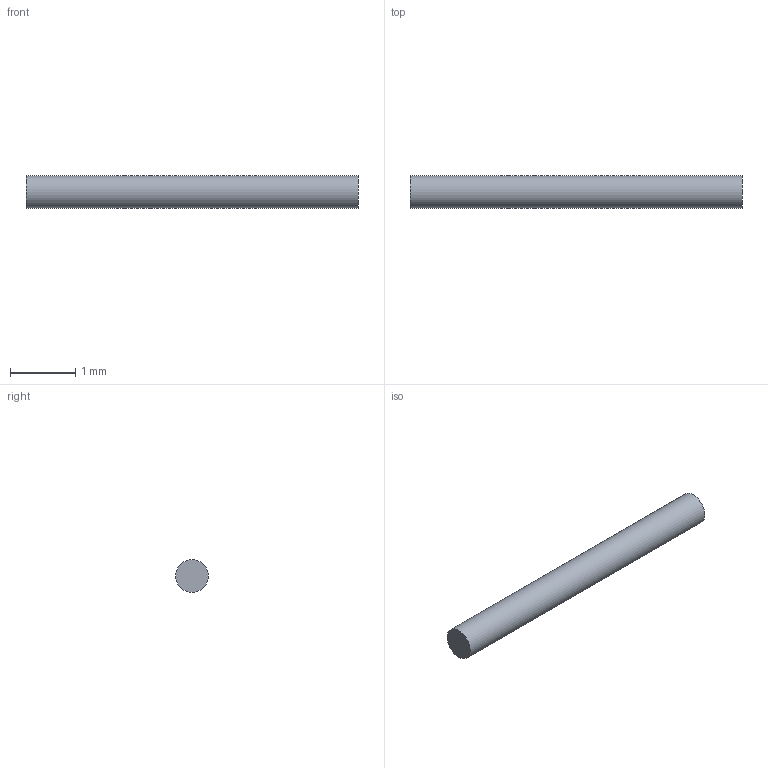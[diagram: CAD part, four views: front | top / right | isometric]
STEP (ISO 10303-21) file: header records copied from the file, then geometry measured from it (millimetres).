
FILE_DESCRIPTION(('FreeCAD Model'),'2;1');
FILE_NAME('Open CASCADE Shape Model','2026-04-07T19:07:43',('FreeCAD'),( 'FreeCAD'),'Open CASCADE STEP processor 7.8','FreeCAD','Unknown');
FILE_SCHEMA(('AUTOMOTIVE_DESIGN { 1 0 10303 214 1 1 1 1 }'));
Length unit declared in the file: millimetre
Products named in the file (1): Open CASCADE STEP translator 7.8 17
Bounding box: 5.08 x 0.5 x 0.5 mm (x, y, z)
Volume: 1 mm3; surface area: 8.4 mm2
Topology: 1 solids, 1 shells, 3 faces, 3 edges, 2 vertices
Faces by surface type: plane 2, cylinder 1
Full cylindrical faces by diameter (mm): 0.5 x1
Entity records: 69 total; most frequent: DIRECTION 13, CARTESIAN_POINT 9, AXIS2_PLACEMENT_3D 6, ORIENTED_EDGE 6, ADVANCED_FACE 3, FACE_BOUND 3, EDGE_LOOP 3, EDGE_CURVE 3
